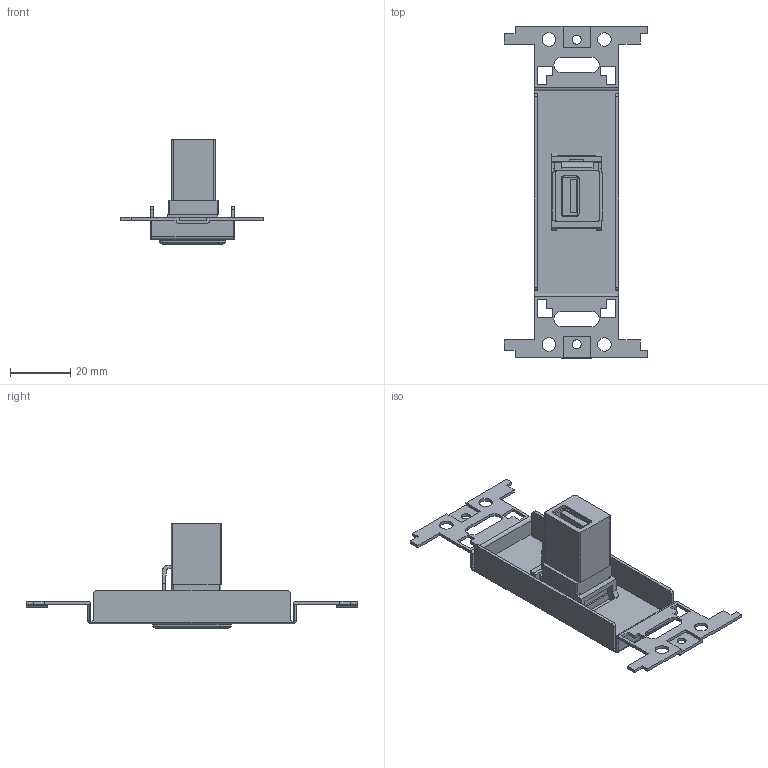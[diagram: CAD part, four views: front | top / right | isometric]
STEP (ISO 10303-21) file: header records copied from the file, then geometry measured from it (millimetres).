
FILE_DESCRIPTION(('FreeCAD Model'),'2;1');
FILE_NAME('Open CASCADE Shape Model','2026-09-10T14:28:00',(''),(''), 'Open CASCADE STEP processor 7.8','FreeCAD','Unknown');
FILE_SCHEMA(('AUTOMOTIVE_DESIGN { 1 0 10303 214 1 1 1 1 }'));
Length unit declared in the file: millimetre
Products named in the file (5): CMW_SIUSB3A_XX; P_200795_XX; P-200795; 3013BUS12xx; TB-001_FAU3-AFAF180-xx-ABS_SD
Assembly tree (4 placements, depth 3):
  CMW_SIUSB3A_XX
    P_200795_XX
      P-200795
      3013BUS12xx
    TB-001_FAU3-AFAF180-xx-ABS_SD
Bounding box: 47.6 x 110 x 35 mm (x, y, z)
Volume: 13065.2 mm3; surface area: 15472.7 mm2
Topology: 3 solids, 3 shells, 284 faces, 801 edges, 526 vertices
Faces by surface type: bspline 164, plane 88, cylinder 28, torus 4
Full cylindrical faces by diameter (mm): 3 x2, 4.5 x4
Entity records: 11514 total; most frequent: CARTESIAN_POINT 5374, ORIENTED_EDGE 1606, EDGE_CURVE 801, DIRECTION 657, VERTEX_POINT 526, B_SPLINE_CURVE_WITH_KNOTS 454, FACE_BOUND 321, EDGE_LOOP 321
